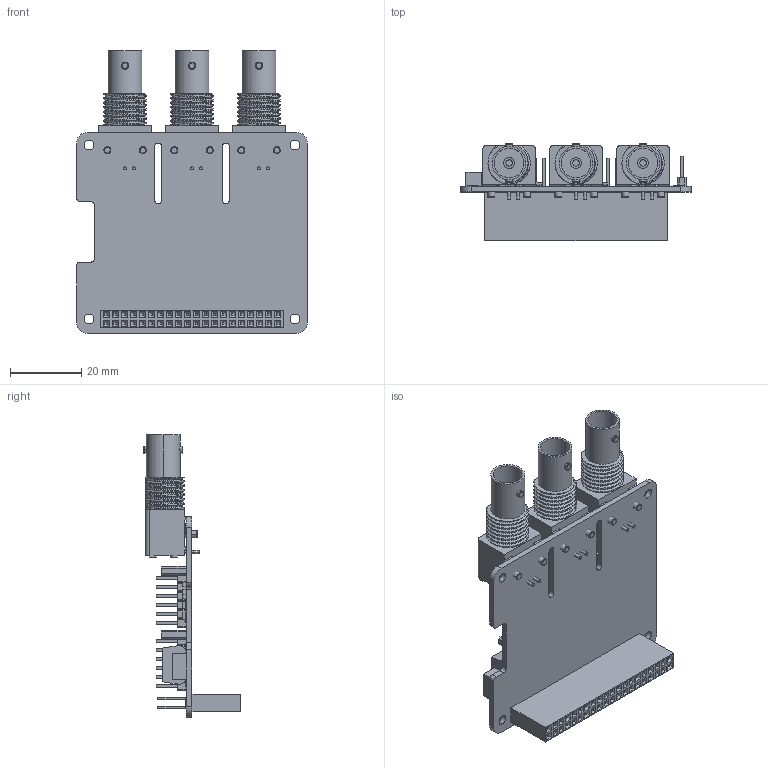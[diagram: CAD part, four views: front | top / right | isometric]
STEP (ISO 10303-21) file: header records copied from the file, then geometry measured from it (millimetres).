
FILE_DESCRIPTION (( 'STEP AP203' ), '1' );
FILE_NAME ('Baugruppe_tentacle_T3.STEP', '2018-08-14T13:49:46', ( '' ), ( '' ), 'SwSTEP 2.0', 'SolidWorks 2017', '' );
FILE_SCHEMA (( 'CONFIG_CONTROL_DESIGN' ));
Length unit declared in the file: millimetre
Products named in the file (6): recom; tentacle_T3; bEhdO_2; bnc connector; Baugruppe_tentacle_T3; Lot4
Assembly tree (10 placements, depth 2):
  Baugruppe_tentacle_T3
    tentacle_T3
    bnc connector  x3
    recom  x2
    Lot4  x2
    bEhdO_2  x2
Bounding box: 65 x 27.2 x 79.5 mm (x, y, z)
Volume: 21015 mm3; surface area: 23987.3 mm2
Topology: 77 solids, 77 shells, 1815 faces, 4479 edges, 2916 vertices
Faces by surface type: plane 1392, cylinder 296, bspline 75, torus 52
Entity records: 48977 total; most frequent: CARTESIAN_POINT 17839, ORIENTED_EDGE 6338, DIRECTION 5872, EDGE_CURVE 3169, LINE 2758, VECTOR 2758, VERTEX_POINT 2052, AXIS2_PLACEMENT_3D 1557
